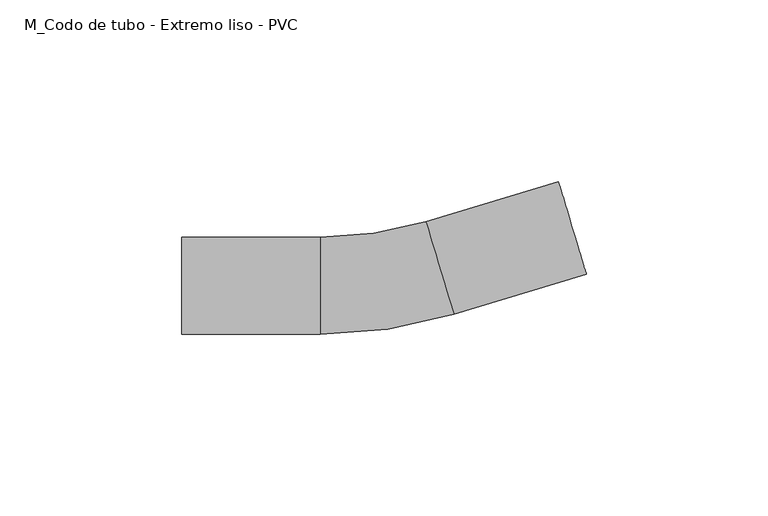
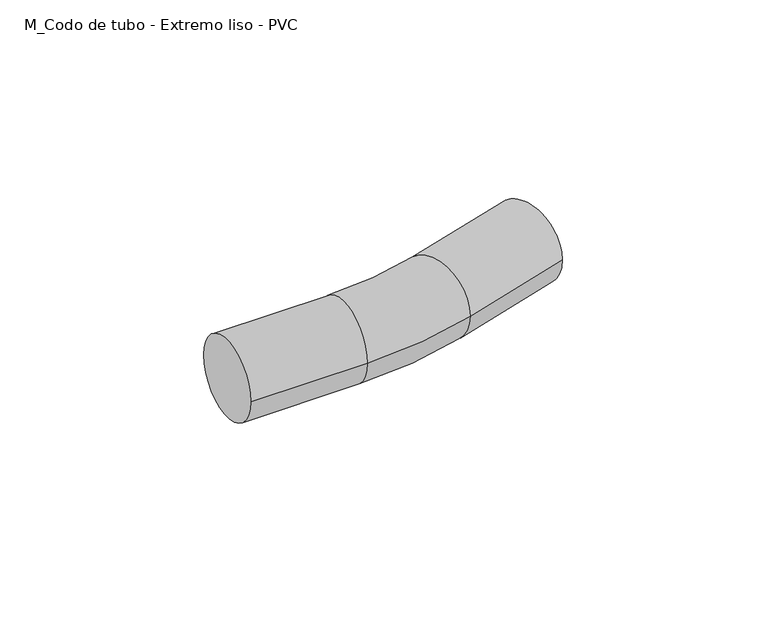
"""IFC4 building model written with IfcOpenShell, lengths in millimetres: cable carrier fitting geometry, M_Codo de tubo - Extremo liso - PVC : CODO ILUMINACION."""

from ifc_helpers import new_model, si_unit, point, frame, origin, place, context, project, spatial, circle_curve, ellipse_curve, trimmed, source, transform, mapped, element, save
from ifc_brep_helpers import plane_surface, cylinder_surface, revolved_surface, advanced_brep


def m_codo_de_tubo_extremo_liso_pvc_d3c679f7(model_context):
    return source(origin(), model_context, "Body", "AdvancedBrep", [
        advanced_brep(
        [(-54.9439087, -13.335, 0.0), (-54.9439087, 13.335, 0.0), (-16.8439087, -13.335, 0.0), (-16.8439087, 13.335, 0.0), (12.2811636, 17.627039, 0.0), (19.974579, -7.9092148, 0.0), (56.4549416, 3.0813785, 0.0), (48.7615263, 28.6176323, 0.0)],
        [
            (0, 1, circle_curve(frame((-54.9439087, 0.0, 0.0), z_axis=(-1.0, 0.0, 0.0), x_axis=(0.0, 1.0, 0.0)), 13.335)),
            (1, 0, circle_curve(frame((-54.9439087, 0.0, 0.0), z_axis=(-1.0, 0.0, 0.0), x_axis=(0.0, 1.0, 0.0)), 13.335)),
            (0, 2),
            (2, 3, circle_curve(frame((-16.8439087, 0.0, 0.0), z_axis=(-1.0, 0.0, 0.0), x_axis=(0.0, 1.0, 0.0)), 13.335)),
            (3, 1),
            (3, 2, circle_curve(frame((-16.8439087, 0.0, 0.0), z_axis=(-1.0, 0.0, 0.0), x_axis=(0.0, 1.0, 0.0)), 13.335)),
            (4, 3, circle_curve(frame((-16.8439087, 114.3, 0.0), z_axis=(0.0, 0.0, -1.0), x_axis=(0.0, -1.0, 0.0)), 100.965)),
            (2, 5, circle_curve(frame((-16.8439087, 114.3, 0.0), z_axis=(0.0, 0.0, 1.0), x_axis=(0.0, -1.0, 0.0)), 127.635)),
            (5, 4, circle_curve(frame((16.1278713, 4.8589121, 0.0), z_axis=(-0.9574898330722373, -0.28846701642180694, 0.0), x_axis=(-0.28846701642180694, 0.9574898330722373, 0.0)), 13.335)),
            (4, 5, circle_curve(frame((16.1278713, 4.8589121, 0.0), z_axis=(-0.9574898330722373, -0.2884670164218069, 0.0), x_axis=(-0.2884670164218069, 0.9574898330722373, 0.0)), 13.335)),
            (6, 7, circle_curve(frame((52.6082339, 15.8495054, 0.0), z_axis=(0.9574898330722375, 0.28846701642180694, 0.0), x_axis=(-0.28846701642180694, 0.9574898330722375, 0.0)), 13.335)),
            (7, 6, circle_curve(frame((52.6082339, 15.8495054, 0.0), z_axis=(0.9574898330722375, 0.28846701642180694, 0.0), x_axis=(-0.28846701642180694, 0.9574898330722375, 0.0)), 13.335)),
            (5, 6),
            (7, 4),
        ],
        [
            plane_surface(frame((-54.9439087, 0.0, 0.0), z_axis=(-1.0, 0.0, 0.0), x_axis=(0.0, 0.0, 1.0))),
            cylinder_surface(frame((-54.9439087, 0.0, 0.0), z_axis=(-1.0, 0.0, 0.0), x_axis=(0.0, 1.0, 0.0)), 13.335),
            revolved_surface(trimmed(ellipse_curve(frame((-16.8439087, 0.0, 0.0), z_axis=(-1.0, 0.0, 0.0), x_axis=(0.0, 1.0, 0.0)), 13.335, 13.335), [point((-16.8439087, -13.335, 0.0))], [point((-16.8439087, 13.335, 0.0))], True, "CARTESIAN"), (-16.8439087, 114.3, 0.0), (0.0, 0.0, 1.0)),
            revolved_surface(trimmed(ellipse_curve(frame((-16.8439087, 0.0, 0.0), z_axis=(-1.0, 0.0, 0.0), x_axis=(0.0, 1.0, 0.0)), 13.335, 13.335), [point((-16.8439087, 13.335, 0.0))], [point((-16.8439087, -13.335, 0.0))], True, "CARTESIAN"), (-16.8439087, 114.3, 0.0), (0.0, 0.0, 1.0)),
            plane_surface(frame((52.6082339, 15.8495054, 0.0), z_axis=(0.9574898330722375, 0.28846701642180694, 0.0), x_axis=(0.0, 0.0, 1.0))),
            cylinder_surface(frame((16.1278713, 4.8589121, 0.0), z_axis=(-0.9574898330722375, -0.28846701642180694, 0.0), x_axis=(-0.28846701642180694, 0.9574898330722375, 0.0)), 13.335),
        ],
        [
            (0, [[1, 2]]),
            (1, [[-1, 3, 4, 5]]),
            (1, [[-2, -5, 6, -3]]),
            (2, [[7, -4, 8, 9]]),
            (3, [[-8, -6, -7, 10]]),
            (4, [[11, 12]]),
            (5, [[-9, 13, -12, 14]]),
            (5, [[-10, -14, -11, -13]]),
        ],
    ),
    ])


if __name__ == "__main__":
    model = new_model("IFC4")
    model_context = context("Model", 3, world=origin())
    ifc_project = project(units=[si_unit("LENGTHUNIT", "METRE", prefix="MILLI")], contexts=[model_context])
    site = spatial("IfcSite", under=ifc_project)
    building = spatial("IfcBuilding", under=site)
    placement = place(None, origin())
    m_codo_de_tubo_extremo_liso_pvc_shape = m_codo_de_tubo_extremo_liso_pvc_d3c679f7(model_context)
    element("IfcCableCarrierFitting", 1, ObjectType="M_Codo de tubo - Extremo liso - PVC : CODO ILUMINACION", at=placement, inside=building, context=model_context, shape_type="MappedRepresentation", body=[
        mapped(m_codo_de_tubo_extremo_liso_pvc_shape, transform((0.0, 0.0, 0.0), x_axis=(1.0, 0.0, 0.0), y_axis=(0.0, 1.0, 0.0), z_axis=(0.0, 0.0, 1.0))),
    ])
    save(model, "model.ifc")
